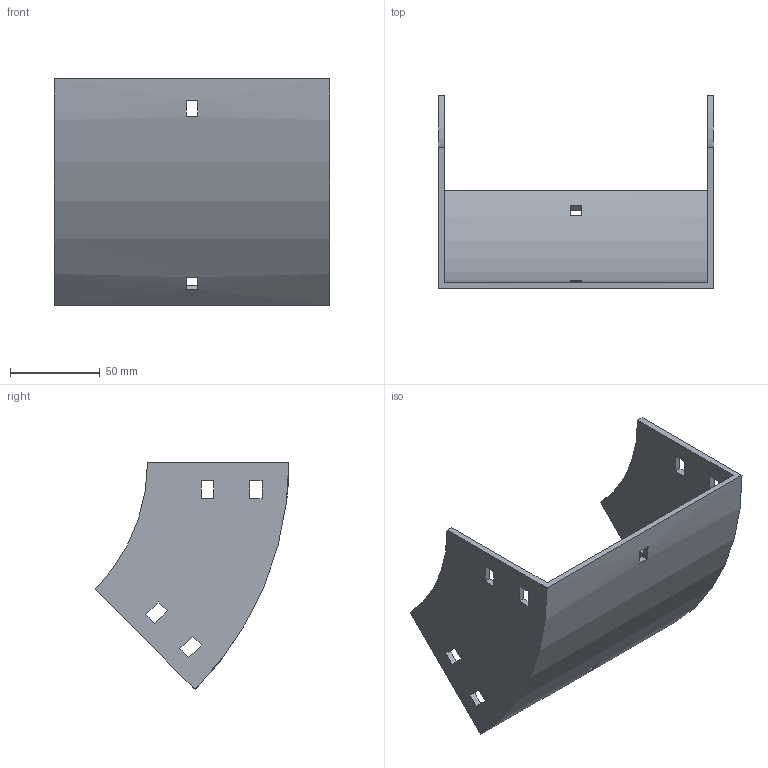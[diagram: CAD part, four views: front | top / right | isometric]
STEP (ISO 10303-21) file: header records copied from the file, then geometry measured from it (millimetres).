
FILE_DESCRIPTION (( 'STEP AP214' ), '1' );
FILE_NAME ('31B1C150.step', '2025-02-21T09:47:37', ( '' ), ( '' ), 'SwSTEP 2.0', 'SolidWorks 2023', '' );
FILE_SCHEMA (( 'AUTOMOTIVE_DESIGN' ));
Length unit declared in the file: millimetre
Products named in the file (1): 31B1C150
Bounding box: 154 x 108.29 x 126.57 mm (x, y, z)
Volume: 129841.5 mm3; surface area: 78059.5 mm2
Topology: 1 solids, 1 shells, 50 faces, 144 edges, 96 vertices
Faces by surface type: plane 46, cylinder 4
Entity records: 1687 total; most frequent: CARTESIAN_POINT 291, ORIENTED_EDGE 288, DIRECTION 262, EDGE_CURVE 144, LINE 128, VECTOR 128, VERTEX_POINT 96, EDGE_LOOP 70
